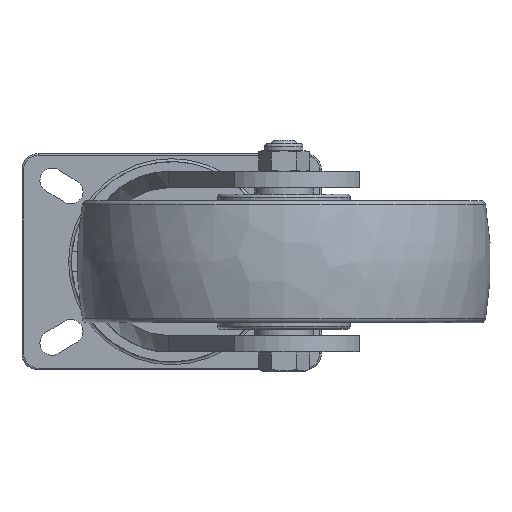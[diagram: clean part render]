
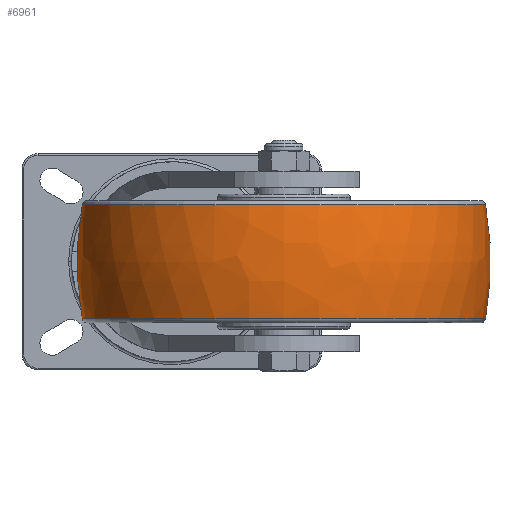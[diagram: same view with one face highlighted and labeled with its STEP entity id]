
A CAD part, front view. The second image highlights one B-rep face of the part: STEP entity #6961.
In plain terms, the highlighted free-form (B-spline) face has degree [3, 3] with [7, 4] control points.
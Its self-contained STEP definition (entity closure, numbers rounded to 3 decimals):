
#5073=CARTESIAN_POINT('',(0.,-73.,0.));
#5074=DIRECTION('',(0.,0.,1.));
#5075=DIRECTION('',(0.175,0.985,0.));
#5076=AXIS2_PLACEMENT_3D('',#5073,#5074,#5075);
#5078=CARTESIAN_POINT('',(0.,73.,0.));
#5079=DIRECTION('',(0.,0.,-1.));
#5080=DIRECTION('',(0.175,-0.985,0.));
#5081=AXIS2_PLACEMENT_3D('',#5078,#5079,#5080);
#5083=CARTESIAN_POINT('',(35.025,0.,0.));
#5084=DIRECTION('',(-1.,0.,0.));
#5085=DIRECTION('',(0.,1.,0.));
#5086=AXIS2_PLACEMENT_3D('',#5083,#5084,#5085);
#5098=CARTESIAN_POINT('',(-35.025,0.,0.));
#5099=DIRECTION('',(-1.,0.,0.));
#5100=DIRECTION('',(0.,1.,0.));
#5101=AXIS2_PLACEMENT_3D('',#5098,#5099,#5100);
#6650=CARTESIAN_POINT('',(35.025,123.909,
0.));
#6651=CARTESIAN_POINT('',(-35.025,123.909,
0.));
#6652=VERTEX_POINT('',#6650);
#6653=VERTEX_POINT('',#6651);
#6690=CARTESIAN_POINT('',(35.025,-123.909,
0.));
#6691=CARTESIAN_POINT('',(-35.025,-123.909,
0.));
#6692=VERTEX_POINT('',#6690);
#6693=VERTEX_POINT('',#6691);
#6924=CARTESIAN_POINT('',(-36.411,-123.414,
7.765));
#6925=CARTESIAN_POINT('',(-12.274,-127.874,
8.045));
#6926=CARTESIAN_POINT('',(12.274,-127.874,8.045));
#6927=CARTESIAN_POINT('',(36.411,-123.414,7.765));
#6928=CARTESIAN_POINT('',(-36.411,-128.192,
-68.184));
#6929=CARTESIAN_POINT('',(-12.274,-132.825,
-70.648));
#6930=CARTESIAN_POINT('',(12.274,-132.825,
-70.648));
#6931=CARTESIAN_POINT('',(36.411,-128.192,
-68.184));
#6932=CARTESIAN_POINT('',(-36.411,-76.099,
-123.658));
#6933=CARTESIAN_POINT('',(-12.274,-78.849,
-128.127));
#6934=CARTESIAN_POINT('',(12.274,-78.849,
-128.127));
#6935=CARTESIAN_POINT('',(36.411,-76.099,
-123.658));
#6936=CARTESIAN_POINT('',(-36.411,0.,
-123.658));
#6937=CARTESIAN_POINT('',(-12.274,0.,-128.127));
#6938=CARTESIAN_POINT('',(12.274,0.,
-128.127));
#6939=CARTESIAN_POINT('',(36.411,0.,
-123.658));
#6940=CARTESIAN_POINT('',(-36.411,76.099,
-123.658));
#6941=CARTESIAN_POINT('',(-12.274,78.849,
-128.127));
#6942=CARTESIAN_POINT('',(12.274,78.849,-128.127));
#6943=CARTESIAN_POINT('',(36.411,76.099,-123.658));
#6944=CARTESIAN_POINT('',(-36.411,128.192,
-68.184));
#6945=CARTESIAN_POINT('',(-12.274,132.825,
-70.648));
#6946=CARTESIAN_POINT('',(12.274,132.825,-70.648));
#6947=CARTESIAN_POINT('',(36.411,128.192,-68.184));
#6948=CARTESIAN_POINT('',(-36.411,123.414,7.765));
#6949=CARTESIAN_POINT('',(-12.274,127.874,8.045));
#6950=CARTESIAN_POINT('',(12.274,127.874,8.045));
#6951=CARTESIAN_POINT('',(36.411,123.414,7.765));
#6952=(BOUNDED_SURFACE()B_SPLINE_SURFACE(3,3,((#6924,#6925,#6926,#6927),(#6928,
#6929,#6930,#6931),(#6932,#6933,#6934,#6935),(#6936,#6937,#6938,#6939),(#6940,
#6941,#6942,#6943),(#6944,#6945,#6946,#6947),(#6948,#6949,#6950,#6951)),
.UNSPECIFIED.,.F.,.F.,.F.)B_SPLINE_SURFACE_WITH_KNOTS((4,3,4),(4,4),(0.,1.,
2.),(0.,1.),.UNSPECIFIED.)GEOMETRIC_REPRESENTATION_ITEM()RATIONAL_B_SPLINE_SURFACE(((1.197,1.184,1.184,1.197),(
0.945,0.935,0.935,0.945),(
0.945,0.935,0.935,0.945),(
1.197,1.184,1.184,1.197),(
0.945,0.935,0.935,0.945),(
0.945,0.935,0.935,0.945),(
1.197,1.184,1.184,1.197)))REPRESENTATION_ITEM('')SURFACE());
#6953=ORIENTED_EDGE('',*,*,#6913,.T.);
#6955=ORIENTED_EDGE('',*,*,#6954,.T.);
#6956=ORIENTED_EDGE('',*,*,#6917,.F.);
#6958=ORIENTED_EDGE('',*,*,#6957,.F.);
#6959=EDGE_LOOP('',(#6953,#6955,#6956,#6958));
#6960=FACE_OUTER_BOUND('',#6959,.F.);
#5077=CIRCLE('',#5076,200.);
#5082=CIRCLE('',#5081,200.);
#5087=CIRCLE('',#5086,123.909);
#5102=CIRCLE('',#5101,123.909);
#6913=EDGE_CURVE('',#6652,#6653,#5077,.T.);
#6917=EDGE_CURVE('',#6692,#6693,#5082,.T.);
#6954=EDGE_CURVE('',#6653,#6693,#5102,.T.);
#6957=EDGE_CURVE('',#6652,#6692,#5087,.T.);
#6961=ADVANCED_FACE('',(#6960),#6952,.T.);
